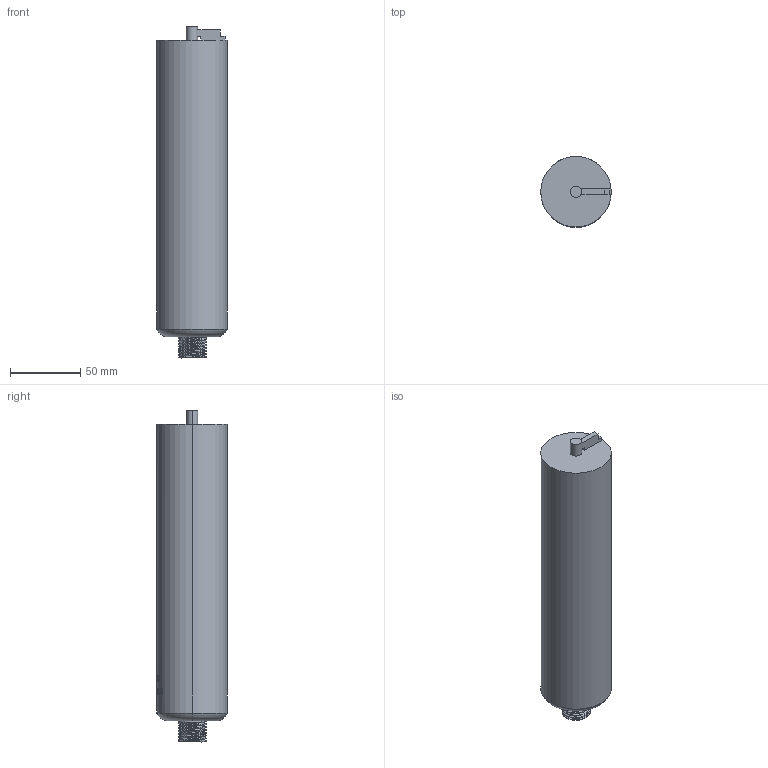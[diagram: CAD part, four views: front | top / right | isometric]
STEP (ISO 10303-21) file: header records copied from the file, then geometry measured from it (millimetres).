
FILE_DESCRIPTION((''),'2;1');
FILE_NAME('KWS-990ZZ','2025-12-29T17:46:43',('28740194'),(''),'CREO PARAMETRIC BY PTC INC, 2024063','CREO PARAMETRIC BY PTC INC, 2024063','');
FILE_SCHEMA(('CONFIG_CONTROL_DESIGN'));
Length unit declared in the file: millimetre
Products named in the file (1): KWS-990ZZ
Bounding box: 50 x 50.27 x 235.53 mm (x, y, z)
Surface area: 38457.8 mm2 (no closed solid volume)
Topology: 0 solids, 3 shells, 439 faces, 1263 edges, 844 vertices
Faces by surface type: bspline 388, cylinder 35, plane 14, torus 2
Entity records: 21738 total; most frequent: CARTESIAN_POINT 13169, ORIENTED_EDGE 2502, EDGE_CURVE 1263, B_SPLINE_CURVE_WITH_KNOTS 987, VERTEX_POINT 844, DIRECTION 526, EDGE_LOOP 458, FACE_OUTER_BOUND 439
